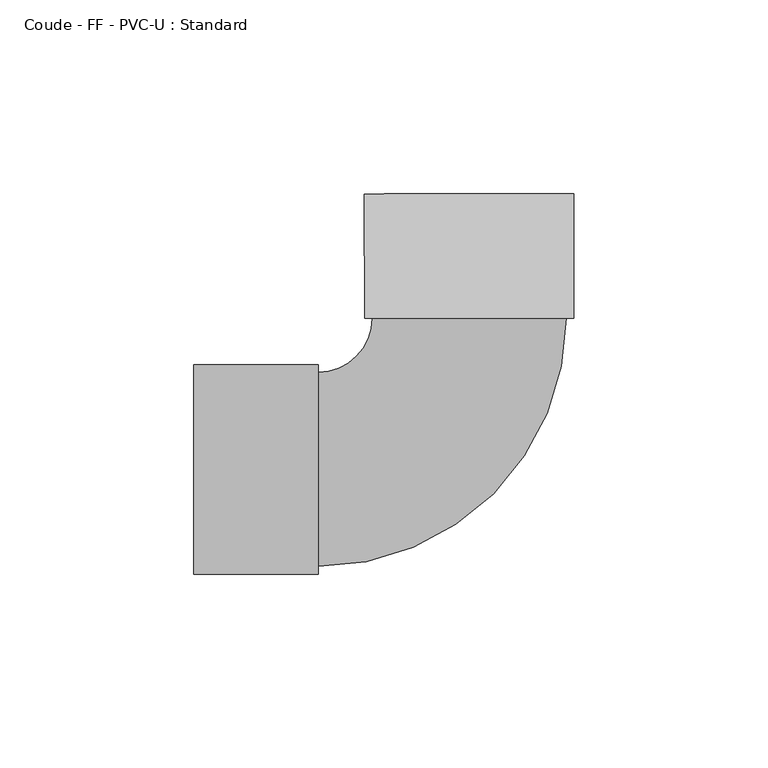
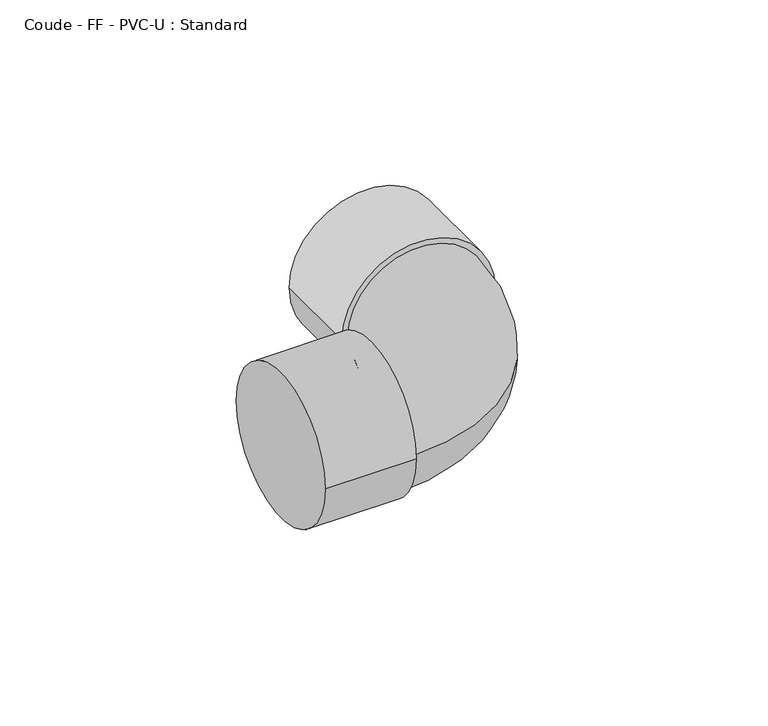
"""IFC4 building model written with IfcOpenShell, lengths in millimetres: pipe fitting geometry, Coude - FF - PVC-U : Standard."""

from ifc_helpers import new_model, si_unit, point, frame, origin, place, context, project, spatial, circle_curve, ellipse_curve, trimmed, source, transform, mapped, element, save
from ifc_brep_helpers import plane_surface, cylinder_surface, revolved_surface, advanced_brep


def coude_ff_pvc_u_standard_220f42cd(model_context):
    return source(origin(), model_context, "Body", "AdvancedBrep", [
        advanced_brep(
        [(-71.0, -27.0, 0.0), (-71.0, 27.0, 0.0), (-39.0, -27.0, 0.0), (-39.0, 27.0, 0.0), (-39.0, -25.0, 0.0), (-39.0, 25.0, 0.0), (-25.0139796, 38.9910352, 0.0), (24.9860172, 39.0089598, 0.0), (26.9860171, 39.0096768, 0.0), (-27.0139795, 38.9903182, 0.0), (26.9745453, 71.0096747, 0.0), (-27.0254512, 70.9903161, 0.0)],
        [
            (0, 1, circle_curve(frame((-71.0, 0.0, 0.0), z_axis=(-1.0, 0.0, 0.0), x_axis=(0.0, 1.0, 0.0)), 27.0)),
            (1, 0, circle_curve(frame((-71.0, 0.0, 0.0), z_axis=(-1.0, 0.0, 0.0), x_axis=(0.0, 1.0, 0.0)), 27.0)),
            (2, 3, circle_curve(frame((-39.0, 0.0, 0.0), z_axis=(1.0, 0.0, 0.0), x_axis=(0.0, 1.0, 0.0)), 27.0)),
            (3, 2, circle_curve(frame((-39.0, 0.0, 0.0), z_axis=(1.0, 0.0, 0.0), x_axis=(0.0, 1.0, 0.0)), 27.0)),
            (4, 5, circle_curve(frame((-39.0, 0.0, 0.0), z_axis=(-1.0, 0.0, 0.0), x_axis=(0.0, 1.0, 0.0)), 25.0)),
            (5, 4, circle_curve(frame((-39.0, 0.0, 0.0), z_axis=(-1.0, 0.0, 0.0), x_axis=(0.0, 1.0, 0.0)), 25.0)),
            (0, 2),
            (3, 1),
            (6, 5, circle_curve(frame((-39.0, 38.9860213, 0.0), z_axis=(0.0, 0.0, -1.0), x_axis=(0.0, -1.0, 0.0)), 13.9860213)),
            (4, 7, circle_curve(frame((-39.0, 38.9860213, 0.0), z_axis=(0.0, 0.0, 1.0), x_axis=(0.0, -1.0, 0.0)), 63.9860213)),
            (7, 6, circle_curve(frame((-0.0139812, 38.9999975, 0.0), z_axis=(0.00035849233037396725, -0.9999999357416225, 0.0), x_axis=(-0.9999999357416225, -0.00035849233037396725, 0.0)), 25.0)),
            (6, 7, circle_curve(frame((-0.0139812, 38.9999975, 0.0), z_axis=(0.00035849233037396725, -0.9999999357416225, 0.0), x_axis=(-0.9999999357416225, -0.00035849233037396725, 0.0)), 25.0)),
            (8, 9, circle_curve(frame((-0.0139812, 38.9999975, 0.0), z_axis=(0.00035849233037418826, -0.9999999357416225, 0.0), x_axis=(-0.9999999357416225, -0.00035849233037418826, 0.0)), 27.0)),
            (9, 8, circle_curve(frame((-0.0139812, 38.9999975, 0.0), z_axis=(0.00035849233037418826, -0.9999999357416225, 0.0), x_axis=(-0.9999999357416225, -0.00035849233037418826, 0.0)), 27.0)),
            (10, 11, circle_curve(frame((-0.025453, 70.9999954, 0.0), z_axis=(-0.00035849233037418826, 0.9999999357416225, 0.0), x_axis=(-0.9999999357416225, -0.00035849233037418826, 0.0)), 27.0)),
            (11, 10, circle_curve(frame((-0.025453, 70.9999954, 0.0), z_axis=(-0.00035849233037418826, 0.9999999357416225, 0.0), x_axis=(-0.9999999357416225, -0.00035849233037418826, 0.0)), 27.0)),
            (8, 10),
            (11, 9),
        ],
        [
            plane_surface(frame((-71.0, 0.0, 0.0), z_axis=(-1.0, 0.0, 0.0), x_axis=(0.0, 0.0, 1.0))),
            plane_surface(frame((-39.0, 0.0, 0.0), z_axis=(1.0, 0.0, 0.0), x_axis=(0.0, 0.0, 1.0))),
            cylinder_surface(frame((-71.0, 0.0, 0.0), z_axis=(-1.0, 0.0, 0.0), x_axis=(0.0, 1.0, 0.0)), 27.0),
            revolved_surface(trimmed(ellipse_curve(frame((-39.0, 0.0, 0.0), z_axis=(-1.0, 0.0, 0.0), x_axis=(0.0, 1.0, 0.0)), 25.0, 25.0), [point((-39.0, -25.0, 0.0))], [point((-39.0, 25.0, 0.0))], True, "CARTESIAN"), (-39.0, 38.9860213, 0.0), (0.0, 0.0, 1.0)),
            revolved_surface(trimmed(ellipse_curve(frame((-39.0, 0.0, 0.0), z_axis=(-1.0, 0.0, 0.0), x_axis=(0.0, 1.0, 0.0)), 25.0, 25.0), [point((-39.0, 25.0, 0.0))], [point((-39.0, -25.0, 0.0))], True, "CARTESIAN"), (-39.0, 38.9860213, 0.0), (0.0, 0.0, 1.0)),
            plane_surface(frame((-0.0139812, 38.9999975, 0.0), z_axis=(0.0003584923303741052, -0.9999999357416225, 0.0), x_axis=(0.0, 0.0, 1.0))),
            plane_surface(frame((-0.025453, 70.9999954, 0.0), z_axis=(-0.0003584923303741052, 0.9999999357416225, 0.0), x_axis=(0.0, 0.0, 1.0))),
            cylinder_surface(frame((-0.0139812, 38.9999975, 0.0), z_axis=(0.00035849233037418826, -0.9999999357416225, 0.0), x_axis=(-0.9999999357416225, -0.00035849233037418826, 0.0)), 27.0),
        ],
        [
            (0, [[1, 2]]),
            (1, [[3, 4], [5, 6]]),
            (2, [[-1, 7, -4, 8]]),
            (2, [[-2, -8, -3, -7]]),
            (3, [[9, -5, 10, 11]]),
            (4, [[-9, 12, -10, -6]]),
            (5, [[13, 14], [-11, -12]]),
            (6, [[15, 16]]),
            (7, [[-13, 17, -16, 18]]),
            (7, [[-14, -18, -15, -17]]),
        ],
    ),
    ])


if __name__ == "__main__":
    model = new_model("IFC4")
    model_context = context("Model", 3, world=origin())
    ifc_project = project(units=[si_unit("LENGTHUNIT", "METRE", prefix="MILLI")], contexts=[model_context])
    site = spatial("IfcSite", under=ifc_project)
    building = spatial("IfcBuilding", under=site)
    placement = place(None, origin())
    coude_ff_pvc_u_standard_shape = coude_ff_pvc_u_standard_220f42cd(model_context)
    element("IfcPipeFitting", 1, ObjectType="Coude - FF - PVC-U : Standard", at=placement, inside=building, context=model_context, shape_type="MappedRepresentation", body=[
        mapped(coude_ff_pvc_u_standard_shape, transform((0.0, 0.0, 0.0), x_axis=(1.0, 0.0, 0.0), y_axis=(0.0, 1.0, 0.0), z_axis=(0.0, 0.0, 1.0))),
    ])
    save(model, "model.ifc")
